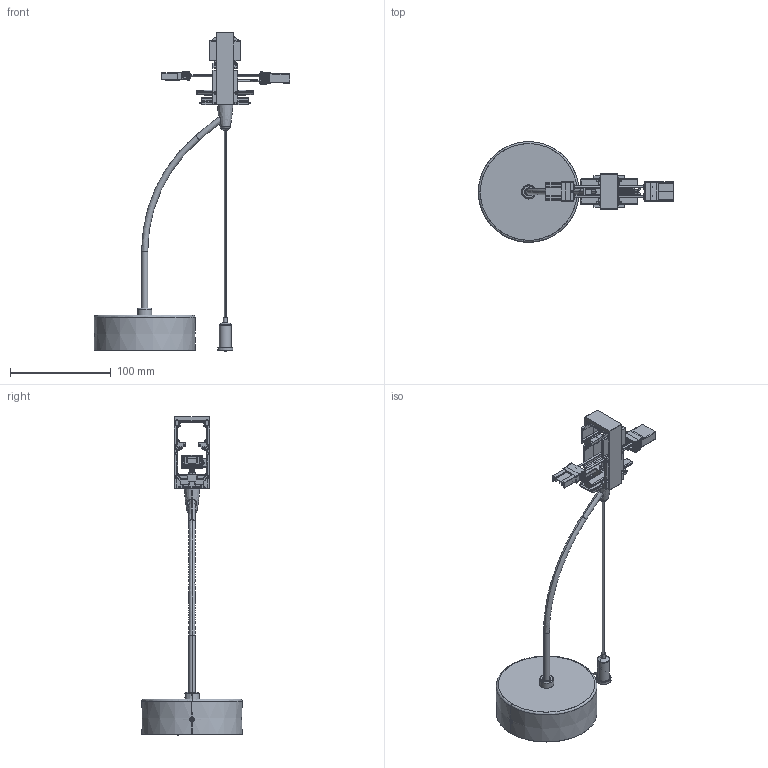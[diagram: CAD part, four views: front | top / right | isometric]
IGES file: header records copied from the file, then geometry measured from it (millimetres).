
Start section: SolidWorks IGES file using analytic representation for surfaces
Global section: file name: C:\Users\extension46\Desktop\3D-WEB\Invisible\Modular\JOINT_180D-AC-wire.IGS; native system: SolidWorks 2023; preprocessor: SolidWorks 2023; author: y.wang; date: 240627.085429; units: millimetre
Bounding box: 194 x 100 x 316.99 mm (x, y, z)
Surface area: 80151.1 mm2 (no closed solid volume)
Topology: 0 solids, 0 shells, 1981 faces, 16425 edges, 16268 vertices
Faces by surface type: revolution 1004, bspline 977
